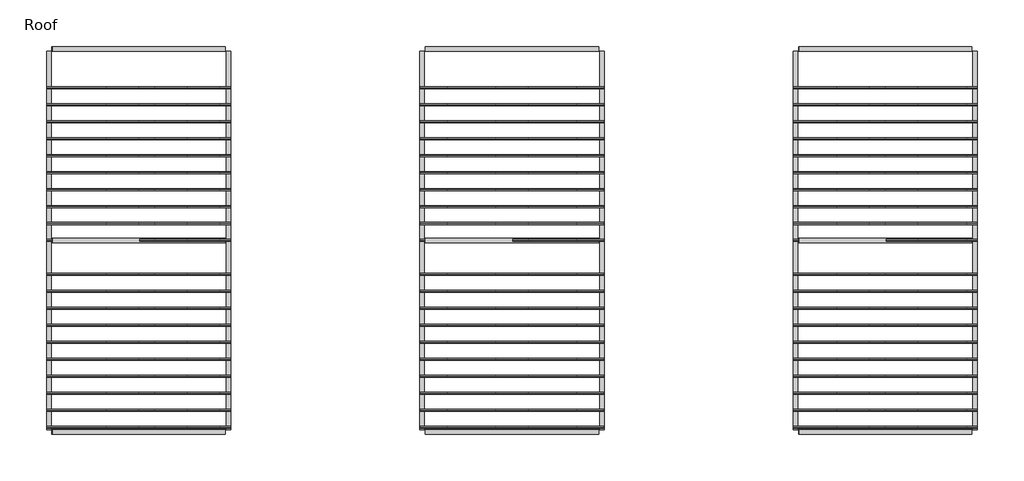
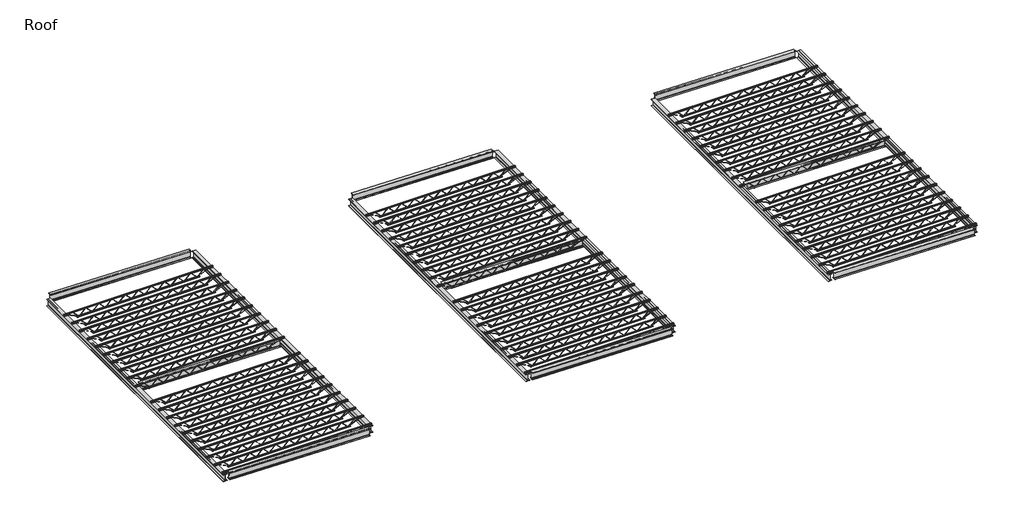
# One storey: 75 beams.
"""IFC4 building model written with IfcOpenShell, lengths in millimetres."""

from ifc_helpers import new_model, si_unit, origin, place, context, project, spatial, transform, mapped, element, save
from components import k_series_bar_joist_rod_web_12k1_aec08bc9, w_wide_flange_w12x26_2_69ed9353, w_wide_flange_w12x26_2_f84e31c7

model = new_model("IFC4")

# Units and contexts
model_context = context("Model", 3, world=origin())
ifc_project = project(units=[si_unit("LENGTHUNIT", "METRE", prefix="MILLI")], contexts=[model_context])

# Site, building, storey
site = spatial("IfcSite", under=ifc_project)
building = spatial("IfcBuilding", under=site)
storey = spatial("IfcBuildingStorey", under=building, Name="Roof", Elevation=3657.6)

# Beams
placement = place(None, origin())
k_series_bar_joist_rod_web_12k1_shape = k_series_bar_joist_rod_web_12k1_aec08bc9(model_context)
element("IfcBeam", 1, ObjectType="K-Series Bar Joist-Rod Web : 12K1", at=placement, inside=storey, context=model_context, shape_type="MappedRepresentation", body=[
    mapped(k_series_bar_joist_rod_web_12k1_shape, transform((-24771.7944089, -3709.2648477, 3771.9), x_axis=(1.0, 0.0, 0.0), y_axis=(0.0, 1.0, 0.0), z_axis=(0.0, 0.0, 1.0))),
])
element("IfcBeam", 2, ObjectType="K-Series Bar Joist-Rod Web : 12K1", at=placement, inside=storey, context=model_context, shape_type="MappedRepresentation", body=[
    mapped(k_series_bar_joist_rod_web_12k1_shape, transform((-24771.7944089, -3099.6648477, 3771.9), x_axis=(1.0, 0.0, 0.0), y_axis=(0.0, 1.0, 0.0), z_axis=(0.0, 0.0, 1.0))),
])
element("IfcBeam", 3, ObjectType="K-Series Bar Joist-Rod Web : 12K1", at=placement, inside=storey, context=model_context, shape_type="MappedRepresentation", body=[
    mapped(k_series_bar_joist_rod_web_12k1_shape, transform((-24771.7944089, -2490.0648477, 3771.9), x_axis=(1.0, 0.0, 0.0), y_axis=(0.0, 1.0, 0.0), z_axis=(0.0, 0.0, 1.0))),
])
element("IfcBeam", 4, ObjectType="K-Series Bar Joist-Rod Web : 12K1", at=placement, inside=storey, context=model_context, shape_type="MappedRepresentation", body=[
    mapped(k_series_bar_joist_rod_web_12k1_shape, transform((-24771.7944089, -1880.4648477, 3771.9), x_axis=(1.0, 0.0, 0.0), y_axis=(0.0, 1.0, 0.0), z_axis=(0.0, 0.0, 1.0))),
])
element("IfcBeam", 5, ObjectType="K-Series Bar Joist-Rod Web : 12K1", at=placement, inside=storey, context=model_context, shape_type="MappedRepresentation", body=[
    mapped(k_series_bar_joist_rod_web_12k1_shape, transform((-24771.7944089, -1270.8648477, 3771.9), x_axis=(1.0, 0.0, 0.0), y_axis=(0.0, 1.0, 0.0), z_axis=(0.0, 0.0, 1.0))),
])
element("IfcBeam", 6, ObjectType="K-Series Bar Joist-Rod Web : 12K1", at=placement, inside=storey, context=model_context, shape_type="MappedRepresentation", body=[
    mapped(k_series_bar_joist_rod_web_12k1_shape, transform((-24771.7944089, -661.2648477, 3771.9), x_axis=(1.0, 0.0, 0.0), y_axis=(0.0, 1.0, 0.0), z_axis=(0.0, 0.0, 1.0))),
])
element("IfcBeam", 7, ObjectType="K-Series Bar Joist-Rod Web : 12K1", at=placement, inside=storey, context=model_context, shape_type="MappedRepresentation", body=[
    mapped(k_series_bar_joist_rod_web_12k1_shape, transform((-24771.7944089, -51.6648477, 3771.9), x_axis=(1.0, 0.0, 0.0), y_axis=(0.0, 1.0, 0.0), z_axis=(0.0, 0.0, 1.0))),
])
element("IfcBeam", 8, ObjectType="K-Series Bar Joist-Rod Web : 12K1", at=placement, inside=storey, context=model_context, shape_type="MappedRepresentation", body=[
    mapped(k_series_bar_joist_rod_web_12k1_shape, transform((-24771.7944089, 557.9351523, 3771.9), x_axis=(1.0, 0.0, 0.0), y_axis=(0.0, 1.0, 0.0), z_axis=(0.0, 0.0, 1.0))),
])
element("IfcBeam", 9, ObjectType="K-Series Bar Joist-Rod Web : 12K1", at=placement, inside=storey, context=model_context, shape_type="MappedRepresentation", body=[
    mapped(k_series_bar_joist_rod_web_12k1_shape, transform((-24771.7944089, 1167.5351523, 3771.9), x_axis=(1.0, 0.0, 0.0), y_axis=(0.0, 1.0, 0.0), z_axis=(0.0, 0.0, 1.0))),
])
element("IfcBeam", 10, ObjectType="K-Series Bar Joist-Rod Web : 12K1", at=placement, inside=storey, context=model_context, shape_type="MappedRepresentation", body=[
    mapped(k_series_bar_joist_rod_web_12k1_shape, transform((-24771.7944089, 1777.1351523, 3771.9), x_axis=(1.0, 0.0, 0.0), y_axis=(0.0, 1.0, 0.0), z_axis=(0.0, 0.0, 1.0))),
])
element("IfcBeam", 11, ObjectType="K-Series Bar Joist-Rod Web : 12K1", at=placement, inside=storey, context=model_context, shape_type="MappedRepresentation", body=[
    mapped(k_series_bar_joist_rod_web_12k1_shape, transform((-24771.7944089, 3605.9351523, 3771.9), x_axis=(1.0, 0.0, 0.0), y_axis=(0.0, 1.0, 0.0), z_axis=(0.0, 0.0, 1.0))),
])
element("IfcBeam", 12, ObjectType="K-Series Bar Joist-Rod Web : 12K1", at=placement, inside=storey, context=model_context, shape_type="MappedRepresentation", body=[
    mapped(k_series_bar_joist_rod_web_12k1_shape, transform((-24771.7944089, 4215.5351523, 3771.9), x_axis=(1.0, 0.0, 0.0), y_axis=(0.0, 1.0, 0.0), z_axis=(0.0, 0.0, 1.0))),
])
element("IfcBeam", 13, ObjectType="K-Series Bar Joist-Rod Web : 12K1", at=placement, inside=storey, context=model_context, shape_type="MappedRepresentation", body=[
    mapped(k_series_bar_joist_rod_web_12k1_shape, transform((-24771.7944089, 4825.1351523, 3771.9), x_axis=(1.0, 0.0, 0.0), y_axis=(0.0, 1.0, 0.0), z_axis=(0.0, 0.0, 1.0))),
])
element("IfcBeam", 14, ObjectType="K-Series Bar Joist-Rod Web : 12K1", at=placement, inside=storey, context=model_context, shape_type="MappedRepresentation", body=[
    mapped(k_series_bar_joist_rod_web_12k1_shape, transform((-24771.7944089, 5434.7351523, 3771.9), x_axis=(1.0, 0.0, 0.0), y_axis=(0.0, 1.0, 0.0), z_axis=(0.0, 0.0, 1.0))),
])
element("IfcBeam", 15, ObjectType="K-Series Bar Joist-Rod Web : 12K1", at=placement, inside=storey, context=model_context, shape_type="MappedRepresentation", body=[
    mapped(k_series_bar_joist_rod_web_12k1_shape, transform((-24771.7944089, 6044.3351523, 3771.9), x_axis=(1.0, 0.0, 0.0), y_axis=(0.0, 1.0, 0.0), z_axis=(0.0, 0.0, 1.0))),
])
element("IfcBeam", 16, ObjectType="K-Series Bar Joist-Rod Web : 12K1", at=placement, inside=storey, context=model_context, shape_type="MappedRepresentation", body=[
    mapped(k_series_bar_joist_rod_web_12k1_shape, transform((-24771.7944089, 6653.9351523, 3771.9), x_axis=(1.0, 0.0, 0.0), y_axis=(0.0, 1.0, 0.0), z_axis=(0.0, 0.0, 1.0))),
])
element("IfcBeam", 17, ObjectType="K-Series Bar Joist-Rod Web : 12K1", at=placement, inside=storey, context=model_context, shape_type="MappedRepresentation", body=[
    mapped(k_series_bar_joist_rod_web_12k1_shape, transform((-24771.7944089, 7263.5351523, 3771.9), x_axis=(1.0, 0.0, 0.0), y_axis=(0.0, 1.0, 0.0), z_axis=(0.0, 0.0, 1.0))),
])
element("IfcBeam", 18, ObjectType="K-Series Bar Joist-Rod Web : 12K1", at=placement, inside=storey, context=model_context, shape_type="MappedRepresentation", body=[
    mapped(k_series_bar_joist_rod_web_12k1_shape, transform((-24771.7944089, 7873.1351523, 3771.9), x_axis=(1.0, 0.0, 0.0), y_axis=(0.0, 1.0, 0.0), z_axis=(0.0, 0.0, 1.0))),
])
element("IfcBeam", 19, ObjectType="K-Series Bar Joist-Rod Web : 12K1", at=placement, inside=storey, context=model_context, shape_type="MappedRepresentation", body=[
    mapped(k_series_bar_joist_rod_web_12k1_shape, transform((-24771.7944089, 8482.7351523, 3771.9), x_axis=(1.0, 0.0, 0.0), y_axis=(0.0, 1.0, 0.0), z_axis=(0.0, 0.0, 1.0))),
])
element("IfcBeam", 20, ObjectType="K-Series Bar Joist-Rod Web : 12K1", at=placement, inside=storey, context=model_context, shape_type="MappedRepresentation", body=[
    mapped(k_series_bar_joist_rod_web_12k1_shape, transform((-11360.5944089, -3709.2648477, 3771.9), x_axis=(1.0, 0.0, 0.0), y_axis=(0.0, 1.0, 0.0), z_axis=(0.0, 0.0, 1.0))),
])
element("IfcBeam", 21, ObjectType="K-Series Bar Joist-Rod Web : 12K1", at=placement, inside=storey, context=model_context, shape_type="MappedRepresentation", body=[
    mapped(k_series_bar_joist_rod_web_12k1_shape, transform((-11360.5944089, -3099.6648477, 3771.9), x_axis=(1.0, 0.0, 0.0), y_axis=(0.0, 1.0, 0.0), z_axis=(0.0, 0.0, 1.0))),
])
element("IfcBeam", 22, ObjectType="K-Series Bar Joist-Rod Web : 12K1", at=placement, inside=storey, context=model_context, shape_type="MappedRepresentation", body=[
    mapped(k_series_bar_joist_rod_web_12k1_shape, transform((-11360.5944089, -2490.0648477, 3771.9), x_axis=(1.0, 0.0, 0.0), y_axis=(0.0, 1.0, 0.0), z_axis=(0.0, 0.0, 1.0))),
])
element("IfcBeam", 23, ObjectType="K-Series Bar Joist-Rod Web : 12K1", at=placement, inside=storey, context=model_context, shape_type="MappedRepresentation", body=[
    mapped(k_series_bar_joist_rod_web_12k1_shape, transform((-11360.5944089, -1880.4648477, 3771.9), x_axis=(1.0, 0.0, 0.0), y_axis=(0.0, 1.0, 0.0), z_axis=(0.0, 0.0, 1.0))),
])
element("IfcBeam", 24, ObjectType="K-Series Bar Joist-Rod Web : 12K1", at=placement, inside=storey, context=model_context, shape_type="MappedRepresentation", body=[
    mapped(k_series_bar_joist_rod_web_12k1_shape, transform((-11360.5944089, -1270.8648477, 3771.9), x_axis=(1.0, 0.0, 0.0), y_axis=(0.0, 1.0, 0.0), z_axis=(0.0, 0.0, 1.0))),
])
element("IfcBeam", 25, ObjectType="K-Series Bar Joist-Rod Web : 12K1", at=placement, inside=storey, context=model_context, shape_type="MappedRepresentation", body=[
    mapped(k_series_bar_joist_rod_web_12k1_shape, transform((-11360.5944089, -661.2648477, 3771.9), x_axis=(1.0, 0.0, 0.0), y_axis=(0.0, 1.0, 0.0), z_axis=(0.0, 0.0, 1.0))),
])
element("IfcBeam", 26, ObjectType="K-Series Bar Joist-Rod Web : 12K1", at=placement, inside=storey, context=model_context, shape_type="MappedRepresentation", body=[
    mapped(k_series_bar_joist_rod_web_12k1_shape, transform((-11360.5944089, -51.6648477, 3771.9), x_axis=(1.0, 0.0, 0.0), y_axis=(0.0, 1.0, 0.0), z_axis=(0.0, 0.0, 1.0))),
])
element("IfcBeam", 27, ObjectType="K-Series Bar Joist-Rod Web : 12K1", at=placement, inside=storey, context=model_context, shape_type="MappedRepresentation", body=[
    mapped(k_series_bar_joist_rod_web_12k1_shape, transform((-11360.5944089, 557.9351523, 3771.9), x_axis=(1.0, 0.0, 0.0), y_axis=(0.0, 1.0, 0.0), z_axis=(0.0, 0.0, 1.0))),
])
element("IfcBeam", 28, ObjectType="K-Series Bar Joist-Rod Web : 12K1", at=placement, inside=storey, context=model_context, shape_type="MappedRepresentation", body=[
    mapped(k_series_bar_joist_rod_web_12k1_shape, transform((-11360.5944089, 1167.5351523, 3771.9), x_axis=(1.0, 0.0, 0.0), y_axis=(0.0, 1.0, 0.0), z_axis=(0.0, 0.0, 1.0))),
])
element("IfcBeam", 29, ObjectType="K-Series Bar Joist-Rod Web : 12K1", at=placement, inside=storey, context=model_context, shape_type="MappedRepresentation", body=[
    mapped(k_series_bar_joist_rod_web_12k1_shape, transform((-11360.5944089, 1777.1351523, 3771.9), x_axis=(1.0, 0.0, 0.0), y_axis=(0.0, 1.0, 0.0), z_axis=(0.0, 0.0, 1.0))),
])
element("IfcBeam", 30, ObjectType="K-Series Bar Joist-Rod Web : 12K1", at=placement, inside=storey, context=model_context, shape_type="MappedRepresentation", body=[
    mapped(k_series_bar_joist_rod_web_12k1_shape, transform((-11360.5944089, 3605.9351523, 3771.9), x_axis=(1.0, 0.0, 0.0), y_axis=(0.0, 1.0, 0.0), z_axis=(0.0, 0.0, 1.0))),
])
element("IfcBeam", 31, ObjectType="K-Series Bar Joist-Rod Web : 12K1", at=placement, inside=storey, context=model_context, shape_type="MappedRepresentation", body=[
    mapped(k_series_bar_joist_rod_web_12k1_shape, transform((-11360.5944089, 4215.5351523, 3771.9), x_axis=(1.0, 0.0, 0.0), y_axis=(0.0, 1.0, 0.0), z_axis=(0.0, 0.0, 1.0))),
])
element("IfcBeam", 32, ObjectType="K-Series Bar Joist-Rod Web : 12K1", at=placement, inside=storey, context=model_context, shape_type="MappedRepresentation", body=[
    mapped(k_series_bar_joist_rod_web_12k1_shape, transform((-11360.5944089, 4825.1351523, 3771.9), x_axis=(1.0, 0.0, 0.0), y_axis=(0.0, 1.0, 0.0), z_axis=(0.0, 0.0, 1.0))),
])
element("IfcBeam", 33, ObjectType="K-Series Bar Joist-Rod Web : 12K1", at=placement, inside=storey, context=model_context, shape_type="MappedRepresentation", body=[
    mapped(k_series_bar_joist_rod_web_12k1_shape, transform((-11360.5944089, 5434.7351523, 3771.9), x_axis=(1.0, 0.0, 0.0), y_axis=(0.0, 1.0, 0.0), z_axis=(0.0, 0.0, 1.0))),
])
element("IfcBeam", 34, ObjectType="K-Series Bar Joist-Rod Web : 12K1", at=placement, inside=storey, context=model_context, shape_type="MappedRepresentation", body=[
    mapped(k_series_bar_joist_rod_web_12k1_shape, transform((-11360.5944089, 6044.3351523, 3771.9), x_axis=(1.0, 0.0, 0.0), y_axis=(0.0, 1.0, 0.0), z_axis=(0.0, 0.0, 1.0))),
])
element("IfcBeam", 35, ObjectType="K-Series Bar Joist-Rod Web : 12K1", at=placement, inside=storey, context=model_context, shape_type="MappedRepresentation", body=[
    mapped(k_series_bar_joist_rod_web_12k1_shape, transform((-11360.5944089, 6653.9351523, 3771.9), x_axis=(1.0, 0.0, 0.0), y_axis=(0.0, 1.0, 0.0), z_axis=(0.0, 0.0, 1.0))),
])
element("IfcBeam", 36, ObjectType="K-Series Bar Joist-Rod Web : 12K1", at=placement, inside=storey, context=model_context, shape_type="MappedRepresentation", body=[
    mapped(k_series_bar_joist_rod_web_12k1_shape, transform((-11360.5944089, 7263.5351523, 3771.9), x_axis=(1.0, 0.0, 0.0), y_axis=(0.0, 1.0, 0.0), z_axis=(0.0, 0.0, 1.0))),
])
element("IfcBeam", 37, ObjectType="K-Series Bar Joist-Rod Web : 12K1", at=placement, inside=storey, context=model_context, shape_type="MappedRepresentation", body=[
    mapped(k_series_bar_joist_rod_web_12k1_shape, transform((-11360.5944089, 7873.1351523, 3771.9), x_axis=(1.0, 0.0, 0.0), y_axis=(0.0, 1.0, 0.0), z_axis=(0.0, 0.0, 1.0))),
])
element("IfcBeam", 38, ObjectType="K-Series Bar Joist-Rod Web : 12K1", at=placement, inside=storey, context=model_context, shape_type="MappedRepresentation", body=[
    mapped(k_series_bar_joist_rod_web_12k1_shape, transform((-11360.5944089, 8482.7351523, 3771.9), x_axis=(1.0, 0.0, 0.0), y_axis=(0.0, 1.0, 0.0), z_axis=(0.0, 0.0, 1.0))),
])
element("IfcBeam", 39, ObjectType="K-Series Bar Joist-Rod Web : 12K1", at=placement, inside=storey, context=model_context, shape_type="MappedRepresentation", body=[
    mapped(k_series_bar_joist_rod_web_12k1_shape, transform((2050.6055911, -3709.2648477, 3771.9), x_axis=(1.0, 0.0, 0.0), y_axis=(0.0, 1.0, 0.0), z_axis=(0.0, 0.0, 1.0))),
])
element("IfcBeam", 40, ObjectType="K-Series Bar Joist-Rod Web : 12K1", at=placement, inside=storey, context=model_context, shape_type="MappedRepresentation", body=[
    mapped(k_series_bar_joist_rod_web_12k1_shape, transform((2050.6055911, -3099.6648477, 3771.9), x_axis=(1.0, 0.0, 0.0), y_axis=(0.0, 1.0, 0.0), z_axis=(0.0, 0.0, 1.0))),
])
element("IfcBeam", 41, ObjectType="K-Series Bar Joist-Rod Web : 12K1", at=placement, inside=storey, context=model_context, shape_type="MappedRepresentation", body=[
    mapped(k_series_bar_joist_rod_web_12k1_shape, transform((2050.6055911, -2490.0648477, 3771.9), x_axis=(1.0, 0.0, 0.0), y_axis=(0.0, 1.0, 0.0), z_axis=(0.0, 0.0, 1.0))),
])
element("IfcBeam", 42, ObjectType="K-Series Bar Joist-Rod Web : 12K1", at=placement, inside=storey, context=model_context, shape_type="MappedRepresentation", body=[
    mapped(k_series_bar_joist_rod_web_12k1_shape, transform((2050.6055911, -1880.4648477, 3771.9), x_axis=(1.0, 0.0, 0.0), y_axis=(0.0, 1.0, 0.0), z_axis=(0.0, 0.0, 1.0))),
])
element("IfcBeam", 43, ObjectType="K-Series Bar Joist-Rod Web : 12K1", at=placement, inside=storey, context=model_context, shape_type="MappedRepresentation", body=[
    mapped(k_series_bar_joist_rod_web_12k1_shape, transform((2050.6055911, -1270.8648477, 3771.9), x_axis=(1.0, 0.0, 0.0), y_axis=(0.0, 1.0, 0.0), z_axis=(0.0, 0.0, 1.0))),
])
element("IfcBeam", 44, ObjectType="K-Series Bar Joist-Rod Web : 12K1", at=placement, inside=storey, context=model_context, shape_type="MappedRepresentation", body=[
    mapped(k_series_bar_joist_rod_web_12k1_shape, transform((2050.6055911, -661.2648477, 3771.9), x_axis=(1.0, 0.0, 0.0), y_axis=(0.0, 1.0, 0.0), z_axis=(0.0, 0.0, 1.0))),
])
element("IfcBeam", 45, ObjectType="K-Series Bar Joist-Rod Web : 12K1", at=placement, inside=storey, context=model_context, shape_type="MappedRepresentation", body=[
    mapped(k_series_bar_joist_rod_web_12k1_shape, transform((2050.6055911, -51.6648477, 3771.9), x_axis=(1.0, 0.0, 0.0), y_axis=(0.0, 1.0, 0.0), z_axis=(0.0, 0.0, 1.0))),
])
element("IfcBeam", 46, ObjectType="K-Series Bar Joist-Rod Web : 12K1", at=placement, inside=storey, context=model_context, shape_type="MappedRepresentation", body=[
    mapped(k_series_bar_joist_rod_web_12k1_shape, transform((2050.6055911, 557.9351523, 3771.9), x_axis=(1.0, 0.0, 0.0), y_axis=(0.0, 1.0, 0.0), z_axis=(0.0, 0.0, 1.0))),
])
element("IfcBeam", 47, ObjectType="K-Series Bar Joist-Rod Web : 12K1", at=placement, inside=storey, context=model_context, shape_type="MappedRepresentation", body=[
    mapped(k_series_bar_joist_rod_web_12k1_shape, transform((2050.6055911, 1167.5351523, 3771.9), x_axis=(1.0, 0.0, 0.0), y_axis=(0.0, 1.0, 0.0), z_axis=(0.0, 0.0, 1.0))),
])
element("IfcBeam", 48, ObjectType="K-Series Bar Joist-Rod Web : 12K1", at=placement, inside=storey, context=model_context, shape_type="MappedRepresentation", body=[
    mapped(k_series_bar_joist_rod_web_12k1_shape, transform((2050.6055911, 1777.1351523, 3771.9), x_axis=(1.0, 0.0, 0.0), y_axis=(0.0, 1.0, 0.0), z_axis=(0.0, 0.0, 1.0))),
])
element("IfcBeam", 49, ObjectType="K-Series Bar Joist-Rod Web : 12K1", at=placement, inside=storey, context=model_context, shape_type="MappedRepresentation", body=[
    mapped(k_series_bar_joist_rod_web_12k1_shape, transform((2050.6055911, 3605.9351523, 3771.9), x_axis=(1.0, 0.0, 0.0), y_axis=(0.0, 1.0, 0.0), z_axis=(0.0, 0.0, 1.0))),
])
element("IfcBeam", 50, ObjectType="K-Series Bar Joist-Rod Web : 12K1", at=placement, inside=storey, context=model_context, shape_type="MappedRepresentation", body=[
    mapped(k_series_bar_joist_rod_web_12k1_shape, transform((2050.6055911, 4215.5351523, 3771.9), x_axis=(1.0, 0.0, 0.0), y_axis=(0.0, 1.0, 0.0), z_axis=(0.0, 0.0, 1.0))),
])
element("IfcBeam", 51, ObjectType="K-Series Bar Joist-Rod Web : 12K1", at=placement, inside=storey, context=model_context, shape_type="MappedRepresentation", body=[
    mapped(k_series_bar_joist_rod_web_12k1_shape, transform((2050.6055911, 4825.1351523, 3771.9), x_axis=(1.0, 0.0, 0.0), y_axis=(0.0, 1.0, 0.0), z_axis=(0.0, 0.0, 1.0))),
])
element("IfcBeam", 52, ObjectType="K-Series Bar Joist-Rod Web : 12K1", at=placement, inside=storey, context=model_context, shape_type="MappedRepresentation", body=[
    mapped(k_series_bar_joist_rod_web_12k1_shape, transform((2050.6055911, 5434.7351523, 3771.9), x_axis=(1.0, 0.0, 0.0), y_axis=(0.0, 1.0, 0.0), z_axis=(0.0, 0.0, 1.0))),
])
element("IfcBeam", 53, ObjectType="K-Series Bar Joist-Rod Web : 12K1", at=placement, inside=storey, context=model_context, shape_type="MappedRepresentation", body=[
    mapped(k_series_bar_joist_rod_web_12k1_shape, transform((2050.6055911, 6044.3351523, 3771.9), x_axis=(1.0, 0.0, 0.0), y_axis=(0.0, 1.0, 0.0), z_axis=(0.0, 0.0, 1.0))),
])
element("IfcBeam", 54, ObjectType="K-Series Bar Joist-Rod Web : 12K1", at=placement, inside=storey, context=model_context, shape_type="MappedRepresentation", body=[
    mapped(k_series_bar_joist_rod_web_12k1_shape, transform((2050.6055911, 6653.9351523, 3771.9), x_axis=(1.0, 0.0, 0.0), y_axis=(0.0, 1.0, 0.0), z_axis=(0.0, 0.0, 1.0))),
])
element("IfcBeam", 55, ObjectType="K-Series Bar Joist-Rod Web : 12K1", at=placement, inside=storey, context=model_context, shape_type="MappedRepresentation", body=[
    mapped(k_series_bar_joist_rod_web_12k1_shape, transform((2050.6055911, 7263.5351523, 3771.9), x_axis=(1.0, 0.0, 0.0), y_axis=(0.0, 1.0, 0.0), z_axis=(0.0, 0.0, 1.0))),
])
element("IfcBeam", 56, ObjectType="K-Series Bar Joist-Rod Web : 12K1", at=placement, inside=storey, context=model_context, shape_type="MappedRepresentation", body=[
    mapped(k_series_bar_joist_rod_web_12k1_shape, transform((2050.6055911, 7873.1351523, 3771.9), x_axis=(1.0, 0.0, 0.0), y_axis=(0.0, 1.0, 0.0), z_axis=(0.0, 0.0, 1.0))),
])
element("IfcBeam", 57, ObjectType="K-Series Bar Joist-Rod Web : 12K1", at=placement, inside=storey, context=model_context, shape_type="MappedRepresentation", body=[
    mapped(k_series_bar_joist_rod_web_12k1_shape, transform((2050.6055911, 8482.7351523, 3771.9), x_axis=(1.0, 0.0, 0.0), y_axis=(0.0, 1.0, 0.0), z_axis=(0.0, 0.0, 1.0))),
])
element("IfcBeam", 58, ObjectType="K-Series Bar Joist-Rod Web : 12K1", at=placement, inside=storey, context=model_context, shape_type="MappedRepresentation", body=[
    mapped(k_series_bar_joist_rod_web_12k1_shape, transform((-24771.7944089, 2996.3351523, 3771.9), x_axis=(1.0, 0.0, 0.0), y_axis=(0.0, 1.0, 0.0), z_axis=(0.0, 0.0, 1.0))),
])
element("IfcBeam", 59, ObjectType="K-Series Bar Joist-Rod Web : 12K1", at=placement, inside=storey, context=model_context, shape_type="MappedRepresentation", body=[
    mapped(k_series_bar_joist_rod_web_12k1_shape, transform((-11360.5944089, 2996.3351523, 3771.9), x_axis=(1.0, 0.0, 0.0), y_axis=(0.0, 1.0, 0.0), z_axis=(0.0, 0.0, 1.0))),
])
element("IfcBeam", 60, ObjectType="K-Series Bar Joist-Rod Web : 12K1", at=placement, inside=storey, context=model_context, shape_type="MappedRepresentation", body=[
    mapped(k_series_bar_joist_rod_web_12k1_shape, transform((2050.6055911, 2996.3351523, 3771.9), x_axis=(1.0, 0.0, 0.0), y_axis=(0.0, 1.0, 0.0), z_axis=(0.0, 0.0, 1.0))),
])
w_wide_flange_w12x26_2_shape = w_wide_flange_w12x26_2_69ed9353(model_context)
element("IfcBeam", 61, ObjectType="W-Wide Flange : W12X26 2", at=placement, inside=storey, context=model_context, shape_type="MappedRepresentation", body=[
    mapped(w_wide_flange_w12x26_2_shape, transform((-27997.5944089, 2996.3351523, 3705.621875), x_axis=(0.0, 1.0, 0.0), y_axis=(-1.0, 0.0, 0.0), z_axis=(0.0, 0.0, 1.0))),
])
element("IfcBeam", 62, ObjectType="W-Wide Flange : W12X26 2", at=placement, inside=storey, context=model_context, shape_type="MappedRepresentation", body=[
    mapped(w_wide_flange_w12x26_2_shape, transform((-21545.9944089, 2996.3351523, 3705.621875), x_axis=(0.0, -1.0, 0.0), y_axis=(1.0, 0.0, 0.0), z_axis=(0.0, 0.0, 1.0))),
])
element("IfcBeam", 63, ObjectType="W-Wide Flange : W12X26 2", at=placement, inside=storey, context=model_context, shape_type="MappedRepresentation", body=[
    mapped(w_wide_flange_w12x26_2_shape, transform((-14586.3944089, 2996.3351523, 3705.621875), x_axis=(0.0, 1.0, 0.0), y_axis=(-1.0, 0.0, 0.0), z_axis=(0.0, 0.0, 1.0))),
])
element("IfcBeam", 64, ObjectType="W-Wide Flange : W12X26 2", at=placement, inside=storey, context=model_context, shape_type="MappedRepresentation", body=[
    mapped(w_wide_flange_w12x26_2_shape, transform((-8134.7944089, 2996.3351523, 3705.621875), x_axis=(0.0, -1.0, 0.0), y_axis=(1.0, 0.0, 0.0), z_axis=(0.0, 0.0, 1.0))),
])
element("IfcBeam", 65, ObjectType="W-Wide Flange : W12X26 2", at=placement, inside=storey, context=model_context, shape_type="MappedRepresentation", body=[
    mapped(w_wide_flange_w12x26_2_shape, transform((-1175.1944089, 2996.3351523, 3705.621875), x_axis=(0.0, 1.0, 0.0), y_axis=(-1.0, 0.0, 0.0), z_axis=(0.0, 0.0, 1.0))),
])
element("IfcBeam", 66, ObjectType="W-Wide Flange : W12X26 2", at=placement, inside=storey, context=model_context, shape_type="MappedRepresentation", body=[
    mapped(w_wide_flange_w12x26_2_shape, transform((5276.4055911, 2996.3351523, 3705.621875), x_axis=(0.0, -1.0, 0.0), y_axis=(1.0, 0.0, 0.0), z_axis=(0.0, 0.0, 1.0))),
])
w_wide_flange_w12x26_2_2_shape = w_wide_flange_w12x26_2_f84e31c7(model_context)
element("IfcBeam", 67, ObjectType="W-Wide Flange : W12X26 2", at=placement, inside=storey, context=model_context, shape_type="MappedRepresentation", body=[
    mapped(w_wide_flange_w12x26_2_2_shape, transform((-24774.8246537, 9879.7351523, 3769.1514644), x_axis=(-0.9998093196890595, 0.0, 0.019527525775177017), y_axis=(0.0, -1.0000000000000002, 0.0), z_axis=(0.019527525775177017, 0.0, 0.9998093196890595))),
])
element("IfcBeam", 68, ObjectType="W-Wide Flange : W12X26 2", at=placement, inside=storey, context=model_context, shape_type="MappedRepresentation", body=[
    mapped(w_wide_flange_w12x26_2_2_shape, transform((-24774.8246537, -3887.0648477, 3769.1514644), x_axis=(-0.9998093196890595, 0.0, 0.019527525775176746), y_axis=(0.0, -1.0000000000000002, 0.0), z_axis=(0.019527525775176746, 0.0, 0.9998093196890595))),
])
element("IfcBeam", 69, ObjectType="W-Wide Flange : W12X26 2", at=placement, inside=storey, context=model_context, shape_type="MappedRepresentation", body=[
    mapped(w_wide_flange_w12x26_2_2_shape, transform((-24774.8246537, 2996.3351523, 3769.1514644), x_axis=(-0.9998093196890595, 0.0, 0.0195275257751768), y_axis=(0.0, -1.0000000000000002, 0.0), z_axis=(0.0195275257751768, 0.0, 0.9998093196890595))),
])
element("IfcBeam", 70, ObjectType="W-Wide Flange : W12X26 2", at=placement, inside=storey, context=model_context, shape_type="MappedRepresentation", body=[
    mapped(w_wide_flange_w12x26_2_2_shape, transform((-11363.6246537, 9879.7351523, 3769.1514644), x_axis=(-0.9998093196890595, 0.0, 0.019527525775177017), y_axis=(0.0, -1.0000000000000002, 0.0), z_axis=(0.019527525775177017, 0.0, 0.9998093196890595))),
])
element("IfcBeam", 71, ObjectType="W-Wide Flange : W12X26 2", at=placement, inside=storey, context=model_context, shape_type="MappedRepresentation", body=[
    mapped(w_wide_flange_w12x26_2_2_shape, transform((-11363.6246537, -3887.0648477, 3769.1514644), x_axis=(-0.9998093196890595, 0.0, 0.019527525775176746), y_axis=(0.0, -1.0000000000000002, 0.0), z_axis=(0.019527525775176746, 0.0, 0.9998093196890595))),
])
element("IfcBeam", 72, ObjectType="W-Wide Flange : W12X26 2", at=placement, inside=storey, context=model_context, shape_type="MappedRepresentation", body=[
    mapped(w_wide_flange_w12x26_2_2_shape, transform((-11363.6246537, 2996.3351523, 3769.1514644), x_axis=(-0.9998093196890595, 0.0, 0.0195275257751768), y_axis=(0.0, -1.0000000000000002, 0.0), z_axis=(0.0195275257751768, 0.0, 0.9998093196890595))),
])
element("IfcBeam", 73, ObjectType="W-Wide Flange : W12X26 2", at=placement, inside=storey, context=model_context, shape_type="MappedRepresentation", body=[
    mapped(w_wide_flange_w12x26_2_2_shape, transform((2047.5753463, 9879.7351523, 3769.1514644), x_axis=(-0.9998093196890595, 0.0, 0.019527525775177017), y_axis=(0.0, -1.0000000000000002, 0.0), z_axis=(0.019527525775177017, 0.0, 0.9998093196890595))),
])
element("IfcBeam", 74, ObjectType="W-Wide Flange : W12X26 2", at=placement, inside=storey, context=model_context, shape_type="MappedRepresentation", body=[
    mapped(w_wide_flange_w12x26_2_2_shape, transform((2047.5753463, -3887.0648477, 3769.1514644), x_axis=(-0.9998093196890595, 0.0, 0.019527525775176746), y_axis=(0.0, -1.0000000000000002, 0.0), z_axis=(0.019527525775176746, 0.0, 0.9998093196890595))),
])
element("IfcBeam", 75, ObjectType="W-Wide Flange : W12X26 2", at=placement, inside=storey, context=model_context, shape_type="MappedRepresentation", body=[
    mapped(w_wide_flange_w12x26_2_2_shape, transform((2047.5753463, 2996.3351523, 3769.1514644), x_axis=(-0.9998093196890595, 0.0, 0.0195275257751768), y_axis=(0.0, -1.0000000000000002, 0.0), z_axis=(0.0195275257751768, 0.0, 0.9998093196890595))),
])

save(model, "model.ifc")
